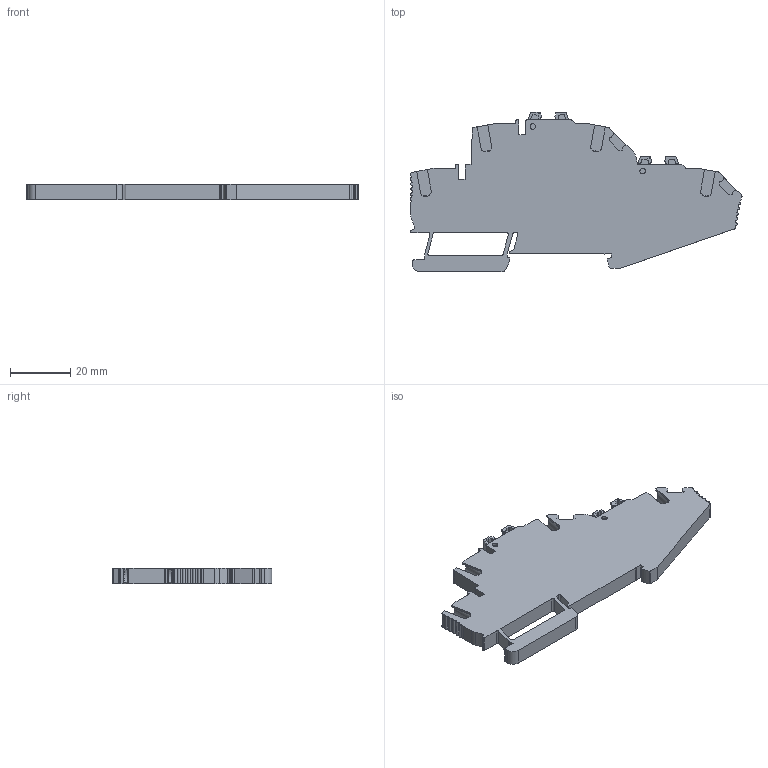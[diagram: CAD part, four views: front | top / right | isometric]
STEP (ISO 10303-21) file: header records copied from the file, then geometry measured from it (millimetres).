
FILE_DESCRIPTION(('Creo Elements/Direct Modeling STEP Export'),'2;1');
FILE_NAME('EFDS.2-P.stp','2019-01-10T11:18:45',(''),(''),'Creo Elements/Direct Modeling STEP processor for AP214 (Solid Model)','Creo Elements/Direct Modeling 20.1 10-Mar-2018 (C) Parametric Technology GmbH','');
FILE_SCHEMA(('AUTOMOTIVE_DESIGN { 1 0 10303 214 1 1 1 1 }'));
Length unit declared in the file: millimetre
Products named in the file (2): EFDS.2-P
Assembly tree (1 placements, depth 2):
  EFDS.2-P
    EFDS.2-P
Bounding box: 110.27 x 53.1 x 5.2 mm (x, y, z)
Volume: 17898.1 mm3; surface area: 12187.7 mm2
Topology: 1 solids, 1 shells, 520 faces, 1541 edges, 1008 vertices
Faces by surface type: plane 380, cylinder 140
Entity records: 16785 total; most frequent: ORIENTED_EDGE 3082, CARTESIAN_POINT 2868, DIRECTION 2557, EDGE_CURVE 1541, VECTOR 1163, LINE 1163, VERTEX_POINT 1008, AXIS2_PLACEMENT_3D 697
